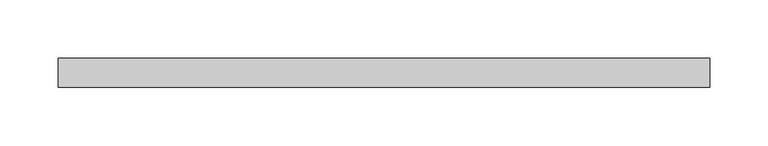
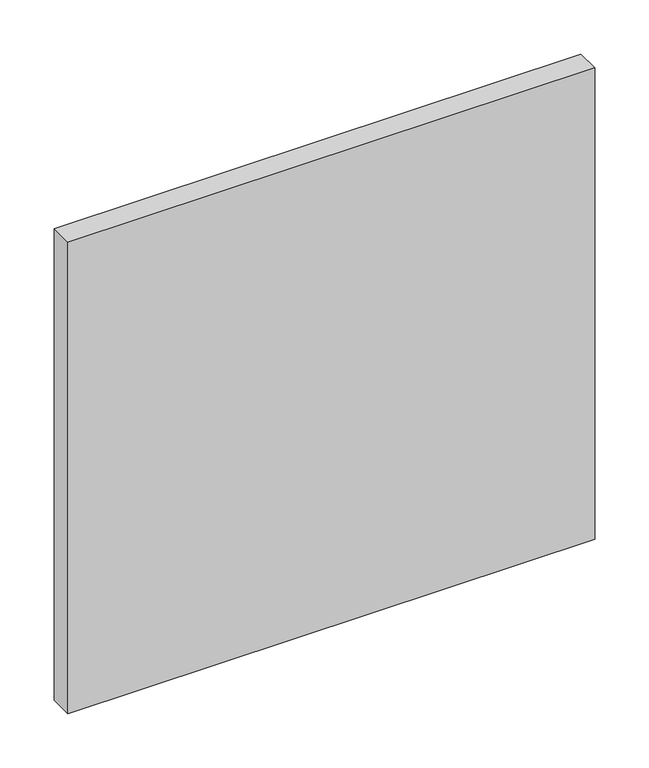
"""IFC4 building model written with IfcOpenShell, lengths in millimetres: plate geometry, 系统嵌板 : 玻璃."""

from ifc_helpers import new_model, si_unit, origin, origin_with_axes, place, context, project, spatial, polyline, outline, extrude, source, transform, mapped, element, save


def plate_b0de3d82(model_context):
    return source(origin(), model_context, "Body", "SweptSolid", [
        extrude(outline(polyline([(280.0, -12.5), (-280.0, -12.5), (-280.0, 12.5), (280.0, 12.5), (280.0, -12.5)])), origin_with_axes(), (0.0, 0.0, 1.0), 530.0),
    ])


if __name__ == "__main__":
    model = new_model("IFC4")
    model_context = context("Model", 3, world=origin())
    ifc_project = project(units=[si_unit("LENGTHUNIT", "METRE", prefix="MILLI")], contexts=[model_context])
    site = spatial("IfcSite", under=ifc_project)
    building = spatial("IfcBuilding", under=site)
    placement = place(None, origin())
    plate_shape = plate_b0de3d82(model_context)
    element("IfcPlate", 1, ObjectType="系统嵌板 : 玻璃", at=placement, inside=building, context=model_context, shape_type="MappedRepresentation", body=[
        mapped(plate_shape, transform((0.0, 0.0, 0.0), x_axis=(1.0, 0.0, 0.0), y_axis=(0.0, 1.0, 0.0), z_axis=(0.0, 0.0, 1.0))),
    ])
    save(model, "model.ifc")
